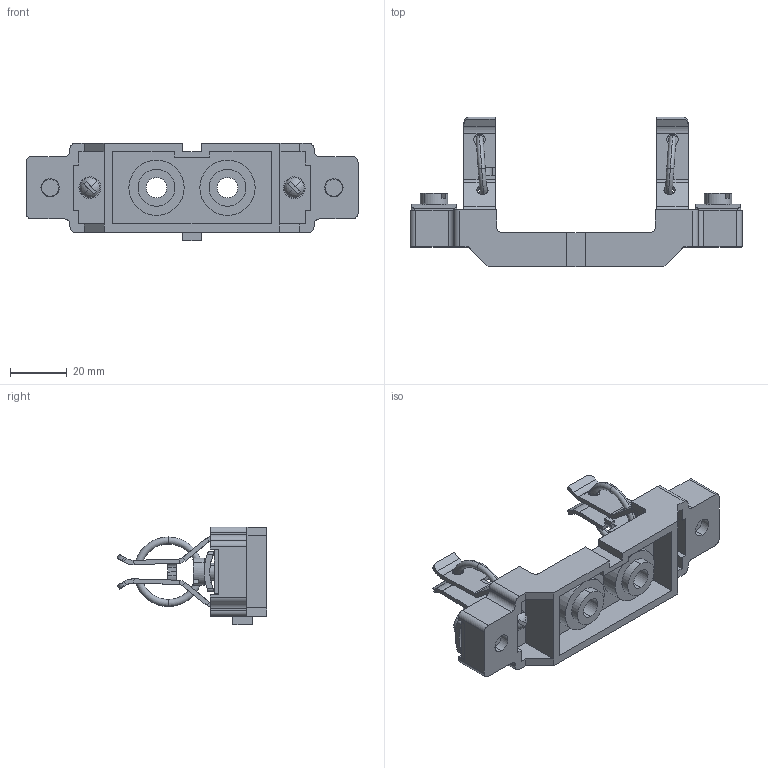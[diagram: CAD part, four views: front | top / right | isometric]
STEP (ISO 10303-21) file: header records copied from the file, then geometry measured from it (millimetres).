
FILE_DESCRIPTION (( 'STEP AP214' ), '1' );
FILE_NAME ('ﾎ魵瑙韃 ﾏﾏﾍ-00-ﾈ1-ﾂ-ﾓﾕﾋ3-ﾊﾝﾀﾇ.STEP', '2023-05-26T05:31:08', ( '' ), ( '' ), 'SwSTEP 2.0', 'SolidWorks 2018', '' );
FILE_SCHEMA (( 'AUTOMOTIVE_DESIGN' ));
Length unit declared in the file: millimetre
Products named in the file (1): ﾎ魵瑙韃 ﾏﾏﾍ-00-ﾈ1-ﾂ-ﾓﾕﾋ3-ﾊﾝﾀﾇ
Bounding box: 117 x 52.75 x 34.5 mm (x, y, z)
Volume: 31718.4 mm3; surface area: 26406.7 mm2
Topology: 13 solids, 13 shells, 449 faces, 1082 edges, 678 vertices
Faces by surface type: plane 257, cylinder 154, torus 32, bspline 6
Entity records: 20297 total; most frequent: CARTESIAN_POINT 4642, DIRECTION 2208, ORIENTED_EDGE 2164, EDGE_CURVE 1082, AXIS2_PLACEMENT_3D 780, VERTEX_POINT 678, VECTOR 648, LINE 648
